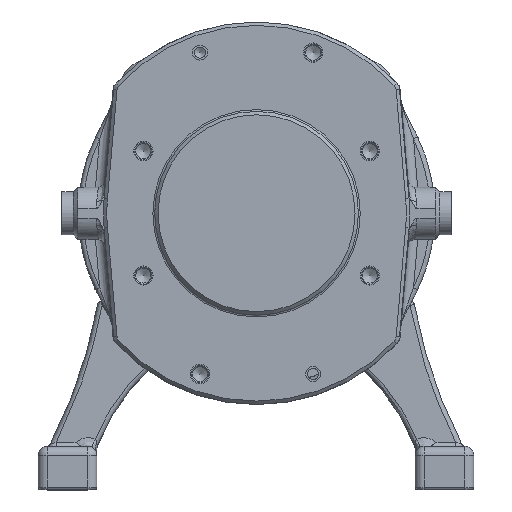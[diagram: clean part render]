
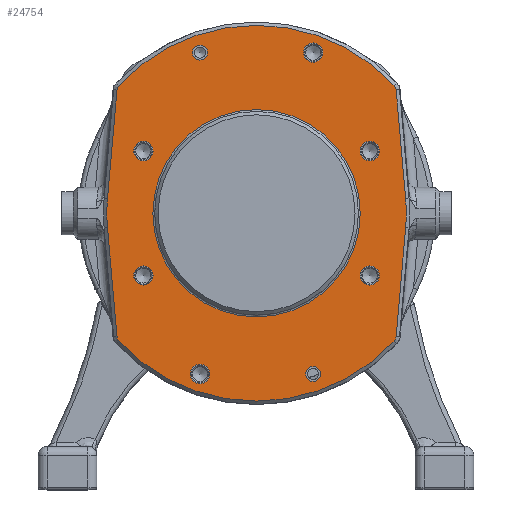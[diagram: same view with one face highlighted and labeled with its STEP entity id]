
A CAD part, top view. The second image highlights one B-rep face of the part: STEP entity #24754.
In plain terms, the highlighted planar face has unit normal (0, 0, 1).
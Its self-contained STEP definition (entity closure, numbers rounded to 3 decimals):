
#767=FACE_BOUND('',#6317,.T.);
#768=FACE_BOUND('',#6318,.T.);
#769=FACE_BOUND('',#6319,.T.);
#770=FACE_BOUND('',#6320,.T.);
#771=FACE_BOUND('',#6321,.T.);
#772=FACE_BOUND('',#6322,.T.);
#773=FACE_BOUND('',#6323,.T.);
#774=FACE_BOUND('',#6324,.T.);
#775=FACE_BOUND('',#6325,.T.);
#2917=CIRCLE('',#27024,45.8);
#2919=CIRCLE('',#27027,83.);
#2920=CIRCLE('',#27028,3.5);
#2921=CIRCLE('',#27029,73.5);
#2922=CIRCLE('',#27030,3.5);
#2923=CIRCLE('',#27031,83.);
#2924=CIRCLE('',#27032,3.5);
#2925=CIRCLE('',#27033,73.5);
#2926=CIRCLE('',#27034,3.5);
#2927=CIRCLE('',#27035,4.25);
#2928=CIRCLE('',#27036,4.25);
#2929=CIRCLE('',#27037,4.25);
#2930=CIRCLE('',#27038,4.25);
#2931=CIRCLE('',#27039,4.25);
#2932=CIRCLE('',#27040,4.25);
#2933=CIRCLE('',#27041,3.324);
#2934=CIRCLE('',#27042,3.324);
#4711=FACE_OUTER_BOUND('',#6316,.T.);
#6316=EDGE_LOOP('',(#18754,#18755,#18756,#18757,#18758,#18759,#18760,#18761,
#18762,#18763,#18764,#18765));
#6317=EDGE_LOOP('',(#18766));
#6318=EDGE_LOOP('',(#18767));
#6319=EDGE_LOOP('',(#18768));
#6320=EDGE_LOOP('',(#18769));
#6321=EDGE_LOOP('',(#18770));
#6322=EDGE_LOOP('',(#18771));
#6323=EDGE_LOOP('',(#18772));
#6324=EDGE_LOOP('',(#18773));
#6325=EDGE_LOOP('',(#18774));
#7909=LINE('',#42118,#9162);
#7910=LINE('',#42122,#9163);
#7911=LINE('',#42130,#9164);
#7912=LINE('',#42134,#9165);
#9162=VECTOR('',#31520,10.);
#9163=VECTOR('',#31523,10.);
#9164=VECTOR('',#31530,10.);
#9165=VECTOR('',#31533,10.);
#10829=VERTEX_POINT('',#42108);
#10830=VERTEX_POINT('',#42112);
#10831=VERTEX_POINT('',#42113);
#10832=VERTEX_POINT('',#42115);
#10833=VERTEX_POINT('',#42117);
#10834=VERTEX_POINT('',#42119);
#10835=VERTEX_POINT('',#42121);
#10836=VERTEX_POINT('',#42123);
#10837=VERTEX_POINT('',#42125);
#10838=VERTEX_POINT('',#42127);
#10839=VERTEX_POINT('',#42129);
#10840=VERTEX_POINT('',#42131);
#10841=VERTEX_POINT('',#42133);
#10842=VERTEX_POINT('',#42136);
#10843=VERTEX_POINT('',#42138);
#10844=VERTEX_POINT('',#42140);
#10845=VERTEX_POINT('',#42142);
#10846=VERTEX_POINT('',#42144);
#10847=VERTEX_POINT('',#42146);
#10848=VERTEX_POINT('',#42148);
#10849=VERTEX_POINT('',#42150);
#13654=EDGE_CURVE('',#10829,#10829,#2917,.T.);
#13656=EDGE_CURVE('',#10830,#10831,#2919,.T.);
#13657=EDGE_CURVE('',#10832,#10830,#2920,.T.);
#13658=EDGE_CURVE('',#10833,#10832,#7909,.T.);
#13659=EDGE_CURVE('',#10834,#10833,#2921,.T.);
#13660=EDGE_CURVE('',#10835,#10834,#7910,.T.);
#13661=EDGE_CURVE('',#10836,#10835,#2922,.T.);
#13662=EDGE_CURVE('',#10837,#10836,#2923,.T.);
#13663=EDGE_CURVE('',#10838,#10837,#2924,.T.);
#13664=EDGE_CURVE('',#10839,#10838,#7911,.T.);
#13665=EDGE_CURVE('',#10840,#10839,#2925,.T.);
#13666=EDGE_CURVE('',#10841,#10840,#7912,.T.);
#13667=EDGE_CURVE('',#10831,#10841,#2926,.T.);
#13668=EDGE_CURVE('',#10842,#10842,#2927,.T.);
#13669=EDGE_CURVE('',#10843,#10843,#2928,.T.);
#13670=EDGE_CURVE('',#10844,#10844,#2929,.T.);
#13671=EDGE_CURVE('',#10845,#10845,#2930,.T.);
#13672=EDGE_CURVE('',#10846,#10846,#2931,.T.);
#13673=EDGE_CURVE('',#10847,#10847,#2932,.T.);
#13674=EDGE_CURVE('',#10848,#10848,#2933,.T.);
#13675=EDGE_CURVE('',#10849,#10849,#2934,.T.);
#18754=ORIENTED_EDGE('',*,*,#13656,.F.);
#18755=ORIENTED_EDGE('',*,*,#13657,.F.);
#18756=ORIENTED_EDGE('',*,*,#13658,.F.);
#18757=ORIENTED_EDGE('',*,*,#13659,.F.);
#18758=ORIENTED_EDGE('',*,*,#13660,.F.);
#18759=ORIENTED_EDGE('',*,*,#13661,.F.);
#18760=ORIENTED_EDGE('',*,*,#13662,.F.);
#18761=ORIENTED_EDGE('',*,*,#13663,.F.);
#18762=ORIENTED_EDGE('',*,*,#13664,.F.);
#18763=ORIENTED_EDGE('',*,*,#13665,.F.);
#18764=ORIENTED_EDGE('',*,*,#13666,.F.);
#18765=ORIENTED_EDGE('',*,*,#13667,.F.);
#18766=ORIENTED_EDGE('',*,*,#13668,.T.);
#18767=ORIENTED_EDGE('',*,*,#13669,.T.);
#18768=ORIENTED_EDGE('',*,*,#13670,.T.);
#18769=ORIENTED_EDGE('',*,*,#13671,.T.);
#18770=ORIENTED_EDGE('',*,*,#13672,.T.);
#18771=ORIENTED_EDGE('',*,*,#13673,.T.);
#18772=ORIENTED_EDGE('',*,*,#13674,.T.);
#18773=ORIENTED_EDGE('',*,*,#13675,.T.);
#18774=ORIENTED_EDGE('',*,*,#13654,.F.);
#24085=PLANE('',#27026);
#24754=ADVANCED_FACE('',(#4711,#767,#768,#769,#770,#771,#772,#773,#774,
#775),#24085,.F.);
#27024=AXIS2_PLACEMENT_3D('',#42109,#31510,#31511);
#27026=AXIS2_PLACEMENT_3D('',#42111,#31514,#31515);
#27027=AXIS2_PLACEMENT_3D('',#42114,#31516,#31517);
#27028=AXIS2_PLACEMENT_3D('',#42116,#31518,#31519);
#27029=AXIS2_PLACEMENT_3D('',#42120,#31521,#31522);
#27030=AXIS2_PLACEMENT_3D('',#42124,#31524,#31525);
#27031=AXIS2_PLACEMENT_3D('',#42126,#31526,#31527);
#27032=AXIS2_PLACEMENT_3D('',#42128,#31528,#31529);
#27033=AXIS2_PLACEMENT_3D('',#42132,#31531,#31532);
#27034=AXIS2_PLACEMENT_3D('',#42135,#31534,#31535);
#27035=AXIS2_PLACEMENT_3D('',#42137,#31536,#31537);
#27036=AXIS2_PLACEMENT_3D('',#42139,#31538,#31539);
#27037=AXIS2_PLACEMENT_3D('',#42141,#31540,#31541);
#27038=AXIS2_PLACEMENT_3D('',#42143,#31542,#31543);
#27039=AXIS2_PLACEMENT_3D('',#42145,#31544,#31545);
#27040=AXIS2_PLACEMENT_3D('',#42147,#31546,#31547);
#27041=AXIS2_PLACEMENT_3D('',#42149,#31548,#31549);
#27042=AXIS2_PLACEMENT_3D('',#42151,#31550,#31551);
#31510=DIRECTION('center_axis',(0.,0.,1.));
#31511=DIRECTION('ref_axis',(0.,-1.,0.));
#31514=DIRECTION('center_axis',(0.,0.,-1.));
#31515=DIRECTION('ref_axis',(-1.,0.,0.));
#31516=DIRECTION('center_axis',(0.,0.,-1.));
#31517=DIRECTION('ref_axis',(0.746,0.666,0.));
#31518=DIRECTION('center_axis',(0.,0.,-1.));
#31519=DIRECTION('ref_axis',(-0.914,0.407,0.));
#31520=DIRECTION('',(0.087,0.996,0.));
#31521=DIRECTION('center_axis',(0.,0.,-1.));
#31522=DIRECTION('ref_axis',(-1.,0.,0.));
#31523=DIRECTION('',(-0.087,0.996,0.));
#31524=DIRECTION('center_axis',(0.,0.,-1.));
#31525=DIRECTION('ref_axis',(-0.914,-0.407,0.));
#31526=DIRECTION('center_axis',(0.,0.,-1.));
#31527=DIRECTION('ref_axis',(-0.746,-0.666,0.));
#31528=DIRECTION('center_axis',(0.,0.,-1.));
#31529=DIRECTION('ref_axis',(0.914,-0.407,0.));
#31530=DIRECTION('',(-0.087,-0.996,0.));
#31531=DIRECTION('center_axis',(0.,0.,-1.));
#31532=DIRECTION('ref_axis',(1.,0.,0.));
#31533=DIRECTION('',(0.087,-0.996,0.));
#31534=DIRECTION('center_axis',(0.,0.,-1.));
#31535=DIRECTION('ref_axis',(0.914,0.407,0.));
#31536=DIRECTION('center_axis',(0.,0.,-1.));
#31537=DIRECTION('ref_axis',(1.,0.,0.));
#31538=DIRECTION('center_axis',(0.,0.,-1.));
#31539=DIRECTION('ref_axis',(1.,0.,0.));
#31540=DIRECTION('center_axis',(0.,0.,-1.));
#31541=DIRECTION('ref_axis',(1.,0.,0.));
#31542=DIRECTION('center_axis',(0.,0.,-1.));
#31543=DIRECTION('ref_axis',(1.,0.,0.));
#31544=DIRECTION('center_axis',(0.,0.,-1.));
#31545=DIRECTION('ref_axis',(1.,0.,0.));
#31546=DIRECTION('center_axis',(0.,0.,-1.));
#31547=DIRECTION('ref_axis',(1.,0.,0.));
#31548=DIRECTION('center_axis',(0.,0.,-1.));
#31549=DIRECTION('ref_axis',(1.,0.,0.));
#31550=DIRECTION('center_axis',(0.,0.,-1.));
#31551=DIRECTION('ref_axis',(1.,0.,0.));
#42108=CARTESIAN_POINT('',(-45.8,-27.5,15.));
#42109=CARTESIAN_POINT('Origin',(0.,-27.5,15.));
#42111=CARTESIAN_POINT('Origin',(0.,57.,15.));
#42112=CARTESIAN_POINT('',(-60.727,29.079,15.));
#42113=CARTESIAN_POINT('',(60.727,29.079,15.));
#42114=CARTESIAN_POINT('Origin',(0.,-27.5,15.));
#42115=CARTESIAN_POINT('',(-61.653,26.998,15.));
#42116=CARTESIAN_POINT('Origin',(-58.166,26.693,15.));
#42117=CARTESIAN_POINT('',(-65.861,-21.094,15.));
#42118=CARTESIAN_POINT('',(-62.506,17.247,15.));
#42119=CARTESIAN_POINT('',(-65.861,-33.906,15.));
#42120=CARTESIAN_POINT('Origin',(7.36,-27.5,15.));
#42121=CARTESIAN_POINT('',(-61.653,-81.998,15.));
#42122=CARTESIAN_POINT('',(-67.379,-16.546,15.));
#42123=CARTESIAN_POINT('',(-60.727,-84.079,15.));
#42124=CARTESIAN_POINT('Origin',(-58.166,-81.693,15.));
#42125=CARTESIAN_POINT('',(60.727,-84.079,15.));
#42126=CARTESIAN_POINT('Origin',(0.,-27.5,15.));
#42127=CARTESIAN_POINT('',(61.653,-81.998,15.));
#42128=CARTESIAN_POINT('Origin',(58.166,-81.693,15.));
#42129=CARTESIAN_POINT('',(65.861,-33.906,15.));
#42130=CARTESIAN_POINT('',(69.843,11.611,15.));
#42131=CARTESIAN_POINT('',(65.861,-21.094,15.));
#42132=CARTESIAN_POINT('Origin',(-7.36,-27.5,15.));
#42133=CARTESIAN_POINT('',(61.653,26.998,15.));
#42134=CARTESIAN_POINT('',(60.043,45.404,15.));
#42135=CARTESIAN_POINT('Origin',(58.166,26.693,15.));
#42136=CARTESIAN_POINT('',(-29.25,-98.5,15.));
#42137=CARTESIAN_POINT('Origin',(-25.,-98.5,15.));
#42138=CARTESIAN_POINT('',(45.75,-55.,15.));
#42139=CARTESIAN_POINT('Origin',(50.,-55.,15.));
#42140=CARTESIAN_POINT('',(-54.25,0.,15.));
#42141=CARTESIAN_POINT('Origin',(-50.,0.,15.));
#42142=CARTESIAN_POINT('',(20.75,43.5,15.));
#42143=CARTESIAN_POINT('Origin',(25.,43.5,15.));
#42144=CARTESIAN_POINT('',(-54.25,-55.,15.));
#42145=CARTESIAN_POINT('Origin',(-50.,-55.,15.));
#42146=CARTESIAN_POINT('',(45.75,0.,15.));
#42147=CARTESIAN_POINT('Origin',(50.,0.,15.));
#42148=CARTESIAN_POINT('',(21.677,-98.5,15.));
#42149=CARTESIAN_POINT('Origin',(25.,-98.5,15.));
#42150=CARTESIAN_POINT('',(-28.324,43.5,15.));
#42151=CARTESIAN_POINT('Origin',(-25.,43.5,15.));
